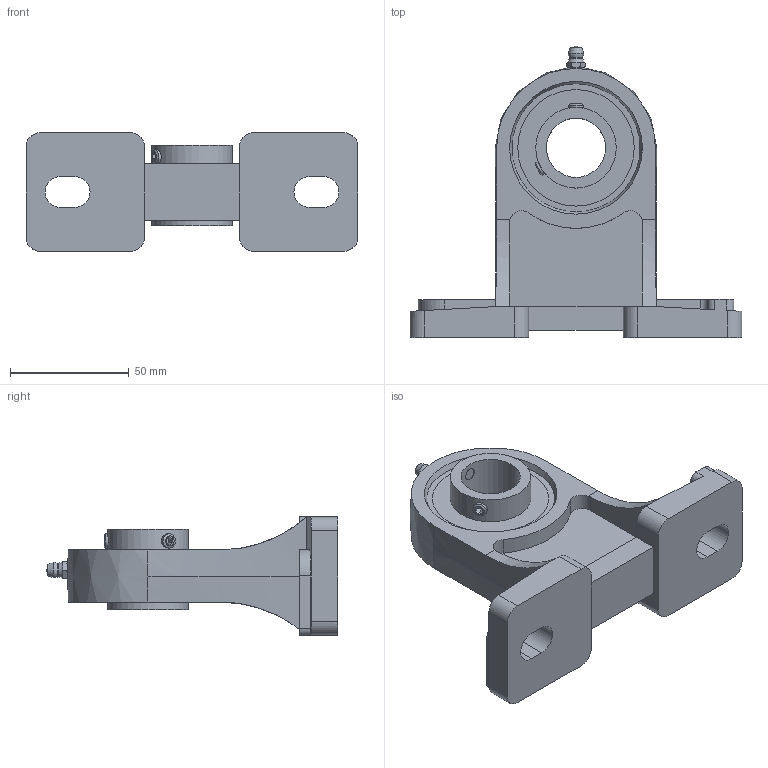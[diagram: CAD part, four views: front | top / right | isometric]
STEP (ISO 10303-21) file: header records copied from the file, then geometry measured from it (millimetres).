
FILE_DESCRIPTION((''),'2;1');
FILE_NAME('\\Ts-tgl068\j-cad-d-base\00.3DCADデータ作成フォルダ\01.ピロー形\UCPH200\UCPH205.stp','2014-04-18T08:30:12',('btec_1106_2'),(''),'Autodesk Inventor 2012','Autodesk Inventor 2012','');
FILE_SCHEMA(('AUTOMOTIVE_DESIGN { 1 0 10303 214 1 1 1 1 }'));
Length unit declared in the file: millimetre
Products named in the file (4): UCPH200; PH [番手=205 ul]; シリーズUC [番手=205 ul]; GU1
Assembly tree (3 placements, depth 2):
  UCPH200
    PH [番手=205 ul]
    シリーズUC [番手=205 ul]
    GU1
Bounding box: 140 x 122.79 x 50 mm (x, y, z)
Volume: 171629.3 mm3; surface area: 48830.4 mm2
Topology: 3 solids, 3 shells, 145 faces, 363 edges, 233 vertices
Faces by surface type: plane 76, cylinder 41, cone 17, bspline 5, sphere 4, torus 2
Full cylindrical faces by diameter (mm): 5.359 x1, 6 x2, 6.35 x1, 25 x1, 34 x2
Entity records: 4558 total; most frequent: CARTESIAN_POINT 1114, DIRECTION 682, ORIENTED_EDGE 666, EDGE_CURVE 333, AXIS2_PLACEMENT_3D 250, VERTEX_POINT 223, EDGE_LOOP 184, VECTOR 182
